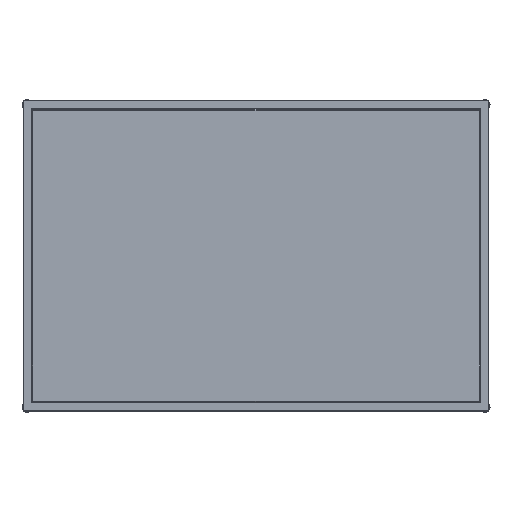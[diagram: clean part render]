
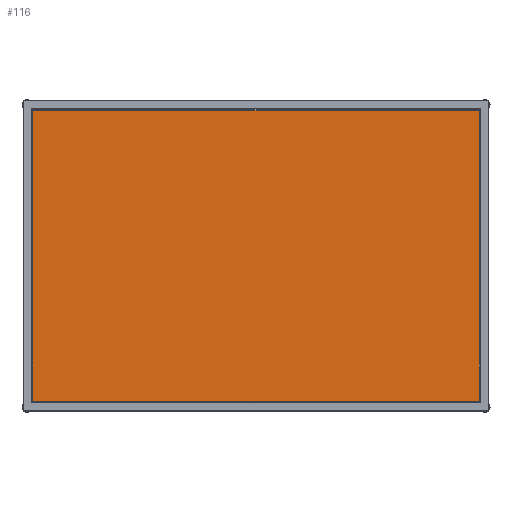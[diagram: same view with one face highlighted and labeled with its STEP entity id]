
A CAD part, top view. The second image highlights one B-rep face of the part: STEP entity #116.
In plain terms, the highlighted planar face has unit normal (0, 0, 1).
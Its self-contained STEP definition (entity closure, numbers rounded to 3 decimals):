
#116=ADVANCED_FACE('',(#209),#1224,.T.);
#209=FACE_OUTER_BOUND('',#302,.T.);
#302=EDGE_LOOP('',(#449,#450,#451,#452));
#449=ORIENTED_EDGE('',*,*,#795,.T.);
#450=ORIENTED_EDGE('',*,*,#762,.T.);
#451=ORIENTED_EDGE('',*,*,#799,.T.);
#452=ORIENTED_EDGE('',*,*,#782,.T.);
#762=EDGE_CURVE('',#1103,#1104,#947,.T.);
#782=EDGE_CURVE('',#1115,#1116,#967,.T.);
#795=EDGE_CURVE('',#1116,#1103,#980,.T.);
#799=EDGE_CURVE('',#1104,#1115,#984,.T.);
#947=B_SPLINE_CURVE_WITH_KNOTS('',1,(#1520,#1521),.UNSPECIFIED.,.F.,.F.,
(2,2),(2.,564.),.UNSPECIFIED.);
#967=B_SPLINE_CURVE_WITH_KNOTS('',1,(#1560,#1561),.UNSPECIFIED.,.F.,.F.,
(2,2),(2.,564.),.UNSPECIFIED.);
#980=B_SPLINE_CURVE_WITH_KNOTS('',1,(#1586,#1587,#1588),.UNSPECIFIED.,.F.,
 .F.,(2,1,2),(2.,583.,864.),.UNSPECIFIED.);
#984=B_SPLINE_CURVE_WITH_KNOTS('',1,(#1598,#1599,#1600),.UNSPECIFIED.,.F.,
 .F.,(2,1,2),(2.,283.,864.),.UNSPECIFIED.);
#1103=VERTEX_POINT('',#1492);
#1104=VERTEX_POINT('',#1493);
#1115=VERTEX_POINT('',#1504);
#1116=VERTEX_POINT('',#1505);
#1224=PLANE('',#1308);
#1308=AXIS2_PLACEMENT_3D('',#1474,#1375,$);
#1375=DIRECTION('',(0.,0.,1.));
#1474=CARTESIAN_POINT('',(-583.,-283.,400.));
#1492=CARTESIAN_POINT('',(581.,-281.,400.));
#1493=CARTESIAN_POINT('',(581.,281.,400.));
#1504=CARTESIAN_POINT('',(-281.,281.,400.));
#1505=CARTESIAN_POINT('',(-281.,-281.,400.));
#1520=CARTESIAN_POINT('',(581.,-281.,400.));
#1521=CARTESIAN_POINT('',(581.,281.,400.));
#1560=CARTESIAN_POINT('',(-281.,281.,400.));
#1561=CARTESIAN_POINT('',(-281.,-281.,400.));
#1586=CARTESIAN_POINT('',(-281.,-281.,400.));
#1587=CARTESIAN_POINT('',(300.,-281.,400.));
#1588=CARTESIAN_POINT('',(581.,-281.,400.));
#1598=CARTESIAN_POINT('',(581.,281.,400.));
#1599=CARTESIAN_POINT('',(300.,281.,400.));
#1600=CARTESIAN_POINT('',(-281.,281.,400.));
